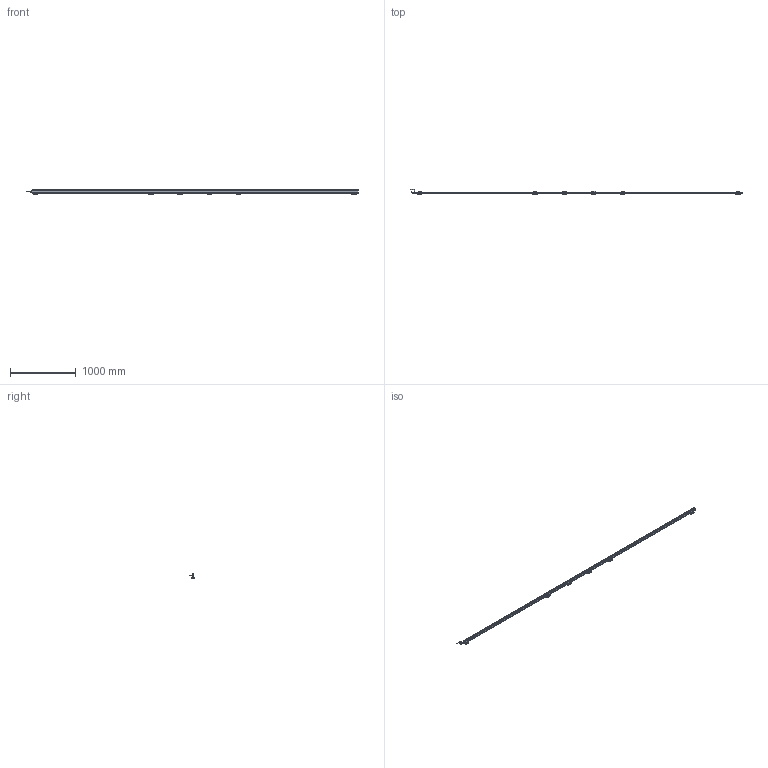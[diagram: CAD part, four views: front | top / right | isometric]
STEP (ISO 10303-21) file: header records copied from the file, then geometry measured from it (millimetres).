
FILE_DESCRIPTION(('Bauteilbeschreibung','HiCAD-Model','HiCAD-STEP-TRANSLATION','Bauteilbeschreibung'),'2;1');
FILE_NAME('PERFORMAXIQEASY_4890-4980_3D.STP','2014-03-05T13:55:09+00:00',('Konstrukteur'),('Konstrukteur Firma GmbH'),' HiCAD 2011, Step 1600.0 ','HiCAD 2011','confidential');
FILE_SCHEMA(('AUTOMOTIVE_DESIGN { 1 2 10303 214 0 1 1 1 }'));
Products named in the file (56): PERFORMAXIQEASY_4890_4980_3D; A_PERFORMAX IQ EASY 4890_4980; A_PERFORMAX IQ EASY SPEED; A_CAP DE; A_CAP CE_5; LED_2C_3MM; LED02C03MM; A519020315_CONNECTOR APPLIANCE; A_INSERT; A_CONTACTS; A_HOUSING; A_PROFILE; A_POTTING; PIN; PIN0; A532000100_BRACKET BARS_ MOUNT; A_SIDE PIECE; A0SIDE0PIECE; A_BRACKET SMALL; A_SLIDE PIECE; A5320001000BRACKET0BARS00MOUNT; A0SIDE0PIECE0; A0SIDE0PIECE1; A0BRACKET0SMALL; A0SLIDE0PIECE; A5320001000BRACKET0BARS00MOUNT0; A0SIDE0PIECE2; A0SIDE0PIECE3; A0BRACKET0SMALL0; A0SLIDE0PIECE0; A0SIDE0PIECE4; A0SIDE0PIECE5; A0BRACKET0SMALL1; A0SLIDE0PIECE1; A0SIDE0PIECE6; A0SIDE0PIECE7; A0BRACKET0SMALL2; A0SLIDE0PIECE2; A0SIDE0PIECE8; A0SIDE0PIECE9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
Assembly tree (55 placements, depth 5):
  PERFORMAXIQEASY_4890_4980_3D
    A_PERFORMAX IQ EASY 4890_4980
      A_PERFORMAX IQ EASY SPEED
        A_CAP DE
        A_CAP CE_5
        LED_2C_3MM
        LED02C03MM
        A519020315_CONNECTOR APPLIANCE
          A_INSERT
          A_CONTACTS
          A_HOUSING
        A_PROFILE
        A_POTTING
        PIN
        PIN0
      A532000100_BRACKET BARS_ MOUNT
        A_SIDE PIECE
        A0SIDE0PIECE
        A_BRACKET SMALL
        A_SLIDE PIECE
      A5320001000BRACKET0BARS00MOUNT
        A0SIDE0PIECE0
        A0SIDE0PIECE1
        A0BRACKET0SMALL
        A0SLIDE0PIECE
      A5320001000BRACKET0BARS00MOUNT0
        A0SIDE0PIECE2
        A0SIDE0PIECE3
        A0BRACKET0SMALL0
        A0SLIDE0PIECE0
      A5320001000BRACKET0BARS00MOUNT0
        A0SIDE0PIECE4
        A0SIDE0PIECE5
        A0BRACKET0SMALL1
        A0SLIDE0PIECE1
      A5320001000BRACKET0BARS00MOUNT0
        A0SIDE0PIECE6
        A0SIDE0PIECE7
        A0BRACKET0SMALL2
        A0SLIDE0PIECE2
      A5320001000BRACKET0BARS00MOUNT0
        A0SIDE0PIECE8
        A0SIDE0PIECE9
        A0BRACKET0SMALL3
        A0SLIDE0PIECE3
      A_CONNECTOR STRAIGHT
        EXTRUDED SOLID_0
        DRAAD GEBOGEN
        REVOLVED SOLID_1
        REVOLVED SOLID_3
      A_CONNECTOR ANGLED
        REVOLVED0SOLID01
        EXTRUDED0SOLID00
        C_EDGE SWEEP_0
        REVOLVED SOLID_2
        REVOLVED0SOLID03
Bounding box: 5057.89 x 84.28 x 63.13 mm (x, y, z)
Volume: 5091671.1 mm3; surface area: 1207568.2 mm2
Topology: 49 solids, 49 shells, 4983 faces, 12800 edges, 7585 vertices
Faces by surface type: cylinder 2137, plane 1879, sphere 332, torus 299, bspline 248, cone 88
Full cylindrical faces by diameter (mm): 0.8 x10, 1 x5, 2.387 x12, 3 x27, 3.1 x1, 4.2 x2, 5 x4, 5.5 x30, 8 x2, 8.2 x1, 8.4 x2, 8.945 x1, 9 x2, 10.2 x1, 10.5 x3, 11 x1, 12 x3, 12.8 x1, 13.8 x4, 14.5 x3
Entity records: 231105 total; most frequent: CARTESIAN_POINT 54548, DIRECTION 24777, ORIENTED_EDGE 24320, EDGE_CURVE 12160, COLOUR_RGB 11541, PRESENTATION_STYLE_ASSIGNMENT 11541, OVER_RIDING_STYLED_ITEM 11497, CURVE_STYLE 11492
